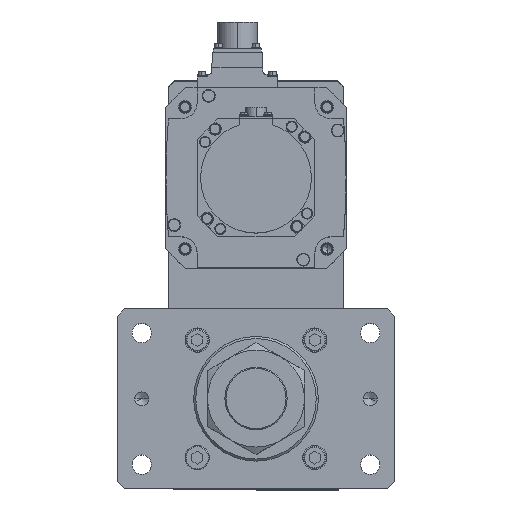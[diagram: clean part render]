
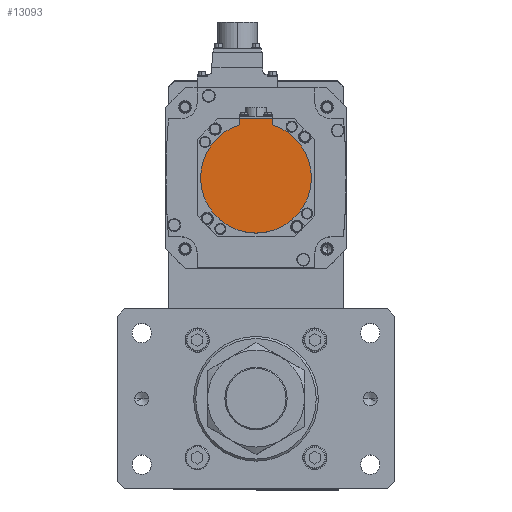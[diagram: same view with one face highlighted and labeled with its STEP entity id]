
A CAD part, top view. The second image highlights one B-rep face of the part: STEP entity #13093.
In plain terms, the highlighted planar face has unit normal (0, 0, 1) as drawn and (0, 0, -1) by its records, which use the part's own axes.
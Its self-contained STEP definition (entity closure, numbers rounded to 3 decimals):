
#1007 = VERTEX_POINT ( 'NONE', #24216 ) ;
#1261 = CARTESIAN_POINT ( 'NONE',  ( 0., -42.5, -146.5 ) ) ;
#2115 = VERTEX_POINT ( 'NONE', #12891 ) ;
#4420 = CARTESIAN_POINT ( 'NONE',  ( 12., -38.158, -146.5 ) ) ;
#4626 = VERTEX_POINT ( 'NONE', #4420 ) ;
#4884 = ORIENTED_EDGE ( 'NONE', *, *, #19869, .F. ) ;
#5494 = ORIENTED_EDGE ( 'NONE', *, *, #23333, .T. ) ;
#6352 = ORIENTED_EDGE ( 'NONE', *, *, #14637, .T. ) ;
#7135 = VECTOR ( 'NONE', #28260, 1000. ) ;
#7531 = CARTESIAN_POINT ( 'NONE',  ( 0., 0., -146.5 ) ) ;
#7533 = ORIENTED_EDGE ( 'NONE', *, *, #16941, .F. ) ;
#7645 = DIRECTION ( 'NONE',  ( 0., 0., 1. ) ) ;
#9383 = CARTESIAN_POINT ( 'NONE',  ( 12., -42.5, -146.5 ) ) ;
#10234 = CARTESIAN_POINT ( 'NONE',  ( -12., -42.5, -146.5 ) ) ;
#11900 = DIRECTION ( 'NONE',  ( 0., 0., 1. ) ) ;
#12843 = CARTESIAN_POINT ( 'NONE',  ( 0., -1.249, -146.5 ) ) ;
#12891 = CARTESIAN_POINT ( 'NONE',  ( -12., -38.158, -146.5 ) ) ;
#12952 = CARTESIAN_POINT ( 'NONE',  ( 40., 0., -146.5 ) ) ;
#13093 = ADVANCED_FACE ( 'NONE', ( #29431 ), #15534, .F. ) ;
#13365 = ORIENTED_EDGE ( 'NONE', *, *, #24619, .F. ) ;
#13439 = AXIS2_PLACEMENT_3D ( 'NONE', #20149, #33668, #22811 ) ;
#13658 = VERTEX_POINT ( 'NONE', #10234 ) ;
#14276 = LINE ( 'NONE', #31049, #7135 ) ;
#14637 = EDGE_CURVE ( 'NONE', #13658, #2115, #14276, .T. ) ;
#15534 = PLANE ( 'NONE',  #16469 ) ;
#16469 = AXIS2_PLACEMENT_3D ( 'NONE', #12843, #31641, #26661 ) ;
#16788 = CARTESIAN_POINT ( 'NONE',  ( 12., -1.249, -146.5 ) ) ;
#16941 = EDGE_CURVE ( 'NONE', #27539, #4626, #27860, .T. ) ;
#17552 = EDGE_CURVE ( 'NONE', #1007, #2115, #20295, .T. ) ;
#17888 = DIRECTION ( 'NONE',  ( 1., 0., 0. ) ) ;
#19869 = EDGE_CURVE ( 'NONE', #4626, #21368, #29695, .T. ) ;
#20149 = CARTESIAN_POINT ( 'NONE',  ( 0., 0., -146.5 ) ) ;
#20295 = CIRCLE ( 'NONE', #13439, 40. ) ;
#20767 = VECTOR ( 'NONE', #22265, 1000. ) ;
#21368 = VERTEX_POINT ( 'NONE', #12952 ) ;
#22244 = AXIS2_PLACEMENT_3D ( 'NONE', #22755, #11900, #27901 ) ;
#22265 = DIRECTION ( 'NONE',  ( 0., 1., 0. ) ) ;
#22755 = CARTESIAN_POINT ( 'NONE',  ( 0., 0., -146.5 ) ) ;
#22811 = DIRECTION ( 'NONE',  ( 1., 0., 0. ) ) ;
#23333 = EDGE_CURVE ( 'NONE', #27539, #13658, #32124, .T. ) ;
#23863 = CIRCLE ( 'NONE', #34409, 40. ) ;
#24216 = CARTESIAN_POINT ( 'NONE',  ( -40., 0., -146.5 ) ) ;
#24619 = EDGE_CURVE ( 'NONE', #21368, #1007, #23863, .T. ) ;
#25078 = VECTOR ( 'NONE', #33379, 1000. ) ;
#26661 = DIRECTION ( 'NONE',  ( 1., 0., 0. ) ) ;
#27503 = ORIENTED_EDGE ( 'NONE', *, *, #17552, .F. ) ;
#27539 = VERTEX_POINT ( 'NONE', #9383 ) ;
#27860 = LINE ( 'NONE', #16788, #20767 ) ;
#27901 = DIRECTION ( 'NONE',  ( 1., 0., 0. ) ) ;
#28068 = EDGE_LOOP ( 'NONE', ( #6352, #27503, #13365, #4884, #7533, #5494 ) ) ;
#28260 = DIRECTION ( 'NONE',  ( 0., 1., 0. ) ) ;
#29431 = FACE_OUTER_BOUND ( 'NONE', #28068, .T. ) ;
#29695 = CIRCLE ( 'NONE', #22244, 40. ) ;
#31049 = CARTESIAN_POINT ( 'NONE',  ( -12., -40.329, -146.5 ) ) ;
#31641 = DIRECTION ( 'NONE',  ( 0., 0., 1. ) ) ;
#32124 = LINE ( 'NONE', #1261, #25078 ) ;
#33379 = DIRECTION ( 'NONE',  ( -1., 0., 0. ) ) ;
#33668 = DIRECTION ( 'NONE',  ( 0., 0., 1. ) ) ;
#34409 = AXIS2_PLACEMENT_3D ( 'NONE', #7531, #7645, #17888 ) ;
